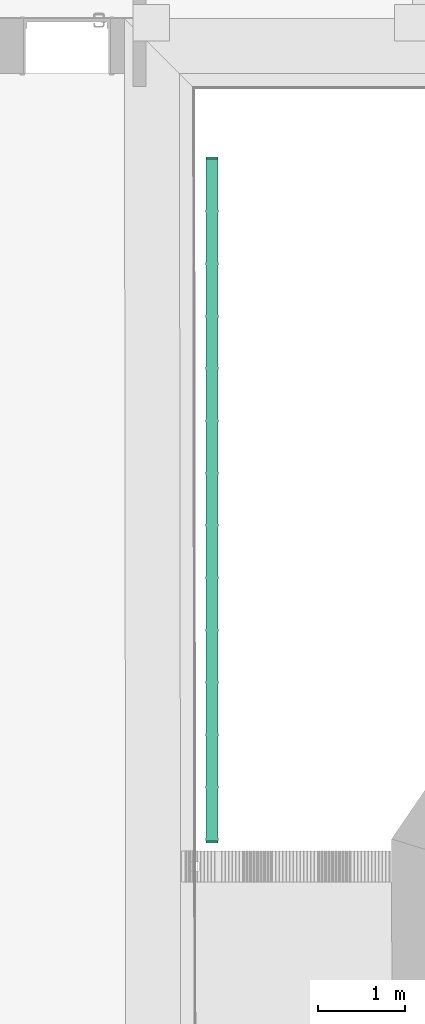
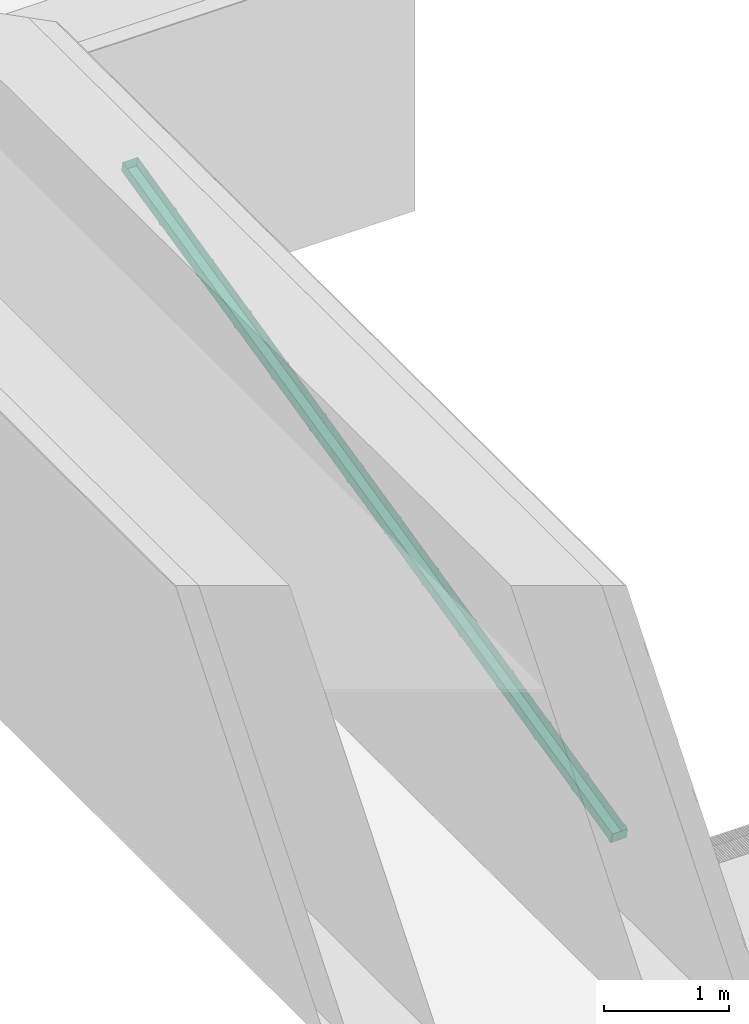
# One storey, part 90 of 127: 1 flow terminal.
"""IFC2X3 building model written with IfcOpenShell, lengths in millimetres."""

from ifc_helpers import new_model, entity, si_unit, converted_unit, derived_unit, money_unit, direction, frame, origin_with_axes, place, context, subcontext, project, spatial, open_shell, surface_model, type_object, element, save


model = new_model("IFC2X3")

# Units and contexts
model_context = context("Model", 3, precision=1e-05, world=origin_with_axes(), true_north=direction((0.0, 1.0)))
body_context = subcontext(model_context, "Body", "Model", "MODEL_VIEW")
ifc_project = project(units=[si_unit("LENGTHUNIT", "METRE", prefix="MILLI"), si_unit("AREAUNIT", "SQUARE_METRE"), si_unit("VOLUMEUNIT", "CUBIC_METRE"), converted_unit("PLANEANGLEUNIT", "DEGREE", entity("IfcPlaneAngleMeasure", 0.0174532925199), si_unit("PLANEANGLEUNIT", "RADIAN"), dimensions=[0, 0, 0, 0, 0, 0, 0]), si_unit("SOLIDANGLEUNIT", "STERADIAN"), money_unit("EUR"), converted_unit("TIMEUNIT", "Year", entity("IfcTimeMeasure", 31556926.0), si_unit("TIMEUNIT", "SECOND"), dimensions=[0, 0, 1, 0, 0, 0, 0]), si_unit("MASSUNIT", "GRAM", prefix="KILO"), si_unit("THERMODYNAMICTEMPERATUREUNIT", "DEGREE_CELSIUS"), si_unit("LUMINOUSINTENSITYUNIT", "LUMEN"), si_unit("ENERGYUNIT", "JOULE", prefix="MEGA"), derived_unit("THERMALCONDUCTANCEUNIT", [(si_unit("POWERUNIT", "WATT"), 1), (si_unit("LENGTHUNIT", "METRE"), -1), (si_unit("THERMODYNAMICTEMPERATUREUNIT", "KELVIN"), -1)]), derived_unit("SPECIFICHEATCAPACITYUNIT", [(si_unit("ENERGYUNIT", "JOULE"), 1), (si_unit("MASSUNIT", "GRAM", prefix="KILO"), -1), (si_unit("THERMODYNAMICTEMPERATUREUNIT", "KELVIN"), -1)]), derived_unit("MASSDENSITYUNIT", [(si_unit("MASSUNIT", "GRAM", prefix="KILO"), 1), (si_unit("VOLUMEUNIT", "CUBIC_METRE"), -1)])], contexts=[model_context])

# Site, building, storey
site_placement = place(None, origin_with_axes())
site = spatial("IfcSite", under=ifc_project, at=site_placement, Name="Site", CompositionType="ELEMENT")
building_placement = place(site_placement, origin_with_axes())
building = spatial("IfcBuilding", under=site, at=building_placement, Name="Building", CompositionType="ELEMENT")
storey_placement = place(building_placement, origin_with_axes())
storey = spatial("IfcBuildingStorey", under=building, at=storey_placement, Name="1 KORRUS", CompositionType="ELEMENT", Elevation=0.0)

# Flow terminal
waste_terminal_type = type_object("IfcWasteTerminalType", Name="Gutter 22", PredefinedType="NOTDEFINED")
flow_terminal_placement = place(storey_placement, frame((40639.2219795, 57967.6920098, 2077.34648242), z_axis=(0.0, 0.0, 1.0), x_axis=(0.0, -1.0, 0.0)))
element("IfcFlowTerminal", 1, at=flow_terminal_placement, inside=storey, type_object=waste_terminal_type, Name="Renn", context=body_context, shape_type="SurfaceModel", body=[
    surface_model("IfcShellBasedSurfaceModel", [(7839.57951186, -70.0, -1809.90954109), (7817.08440643, -70.0, -1907.34654757), (-22.4951054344, -70.0, -97.4370064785), (0.0, -70.0, 0.0), (7817.08440643, 70.0, -1907.34654757), (-22.4951054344, 70.0, -97.4370064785), (7839.57951186, 70.0, -1809.90954109), (0.0, 70.0, 0.0)], [open_shell([[[0, 1, 2, 3]], [[1, 4, 5, 2]], [[4, 6, 7, 5]]])]),
    surface_model("IfcShellBasedSurfaceModel", [(585.0, -74.0, -133.057891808), (585.0, -74.0, -246.614348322), (615.0, -74.0, -246.614348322), (615.0, -74.0, -133.057891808), (585.0, 74.0, -246.614348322), (615.0, 74.0, -246.614348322), (585.0, 74.0, -133.057891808), (615.0, 74.0, -133.057891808)], [open_shell([[[0, 1, 2, 3]], [[1, 4, 5, 2]], [[4, 6, 7, 5]]])]),
    surface_model("IfcShellBasedSurfaceModel", [(1185.0, -74.0, -271.578806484), (1185.0, -74.0, -385.135262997), (1215.0, -74.0, -385.135262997), (1215.0, -74.0, -271.578806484), (1185.0, 74.0, -385.135262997), (1215.0, 74.0, -385.135262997), (1185.0, 74.0, -271.578806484), (1215.0, 74.0, -271.578806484)], [open_shell([[[0, 1, 2, 3]], [[1, 4, 5, 2]], [[4, 6, 7, 5]]])]),
    surface_model("IfcShellBasedSurfaceModel", [(1785.0, -74.0, -410.099721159), (1785.0, -74.0, -523.656177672), (1815.0, -74.0, -523.656177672), (1815.0, -74.0, -410.099721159), (1785.0, 74.0, -523.656177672), (1815.0, 74.0, -523.656177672), (1785.0, 74.0, -410.099721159), (1815.0, 74.0, -410.099721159)], [open_shell([[[0, 1, 2, 3]], [[1, 4, 5, 2]], [[4, 6, 7, 5]]])]),
    surface_model("IfcShellBasedSurfaceModel", [(2385.0, -74.0, -548.620635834), (2385.0, -74.0, -662.177092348), (2415.0, -74.0, -662.177092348), (2415.0, -74.0, -548.620635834), (2385.0, 74.0, -662.177092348), (2415.0, 74.0, -662.177092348), (2385.0, 74.0, -548.620635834), (2415.0, 74.0, -548.620635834)], [open_shell([[[0, 1, 2, 3]], [[1, 4, 5, 2]], [[4, 6, 7, 5]]])]),
    surface_model("IfcShellBasedSurfaceModel", [(2985.0, -74.0, -687.14155051), (2985.0, -74.0, -800.698007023), (3015.0, -74.0, -800.698007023), (3015.0, -74.0, -687.14155051), (2985.0, 74.0, -800.698007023), (3015.0, 74.0, -800.698007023), (2985.0, 74.0, -687.14155051), (3015.0, 74.0, -687.14155051)], [open_shell([[[0, 1, 2, 3]], [[1, 4, 5, 2]], [[4, 6, 7, 5]]])]),
    surface_model("IfcShellBasedSurfaceModel", [(3585.0, -74.0, -825.662465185), (3585.0, -74.0, -939.218921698), (3615.0, -74.0, -939.218921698), (3615.0, -74.0, -825.662465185), (3585.0, 74.0, -939.218921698), (3615.0, 74.0, -939.218921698), (3585.0, 74.0, -825.662465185), (3615.0, 74.0, -825.662465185)], [open_shell([[[0, 1, 2, 3]], [[1, 4, 5, 2]], [[4, 6, 7, 5]]])]),
    surface_model("IfcShellBasedSurfaceModel", [(4185.0, -74.0, -964.18337986), (4185.0, -74.0, -1077.73983637), (4215.0, -74.0, -1077.73983637), (4215.0, -74.0, -964.18337986), (4185.0, 74.0, -1077.73983637), (4215.0, 74.0, -1077.73983637), (4185.0, 74.0, -964.18337986), (4215.0, 74.0, -964.18337986)], [open_shell([[[0, 1, 2, 3]], [[1, 4, 5, 2]], [[4, 6, 7, 5]]])]),
    surface_model("IfcShellBasedSurfaceModel", [(4785.0, -74.0, -1102.70429454), (4785.0, -74.0, -1216.26075105), (4815.0, -74.0, -1216.26075105), (4815.0, -74.0, -1102.70429454), (4785.0, 74.0, -1216.26075105), (4815.0, 74.0, -1216.26075105), (4785.0, 74.0, -1102.70429454), (4815.0, 74.0, -1102.70429454)], [open_shell([[[0, 1, 2, 3]], [[1, 4, 5, 2]], [[4, 6, 7, 5]]])]),
    surface_model("IfcShellBasedSurfaceModel", [(5385.0, -74.0, -1241.22520921), (5385.0, -74.0, -1354.78166572), (5415.0, -74.0, -1354.78166572), (5415.0, -74.0, -1241.22520921), (5385.0, 74.0, -1354.78166572), (5415.0, 74.0, -1354.78166572), (5385.0, 74.0, -1241.22520921), (5415.0, 74.0, -1241.22520921)], [open_shell([[[0, 1, 2, 3]], [[1, 4, 5, 2]], [[4, 6, 7, 5]]])]),
    surface_model("IfcShellBasedSurfaceModel", [(5985.0, -74.0, -1379.74612389), (5985.0, -74.0, -1493.3025804), (6015.0, -74.0, -1493.3025804), (6015.0, -74.0, -1379.74612389), (5985.0, 74.0, -1493.3025804), (6015.0, 74.0, -1493.3025804), (5985.0, 74.0, -1379.74612389), (6015.0, 74.0, -1379.74612389)], [open_shell([[[0, 1, 2, 3]], [[1, 4, 5, 2]], [[4, 6, 7, 5]]])]),
    surface_model("IfcShellBasedSurfaceModel", [(6585.0, -74.0, -1518.26703856), (6585.0, -74.0, -1631.82349507), (6615.0, -74.0, -1631.82349507), (6615.0, -74.0, -1518.26703856), (6585.0, 74.0, -1631.82349507), (6615.0, 74.0, -1631.82349507), (6585.0, 74.0, -1518.26703856), (6615.0, 74.0, -1518.26703856)], [open_shell([[[0, 1, 2, 3]], [[1, 4, 5, 2]], [[4, 6, 7, 5]]])]),
    surface_model("IfcShellBasedSurfaceModel", [(7185.0, -74.0, -1656.78795324), (7185.0, -74.0, -1770.34440975), (7215.0, -74.0, -1770.34440975), (7215.0, -74.0, -1656.78795324), (7185.0, 74.0, -1770.34440975), (7215.0, 74.0, -1770.34440975), (7185.0, 74.0, -1656.78795324), (7215.0, 74.0, -1656.78795324)], [open_shell([[[0, 1, 2, 3]], [[1, 4, 5, 2]], [[4, 6, 7, 5]]])]),
    surface_model("IfcShellBasedSurfaceModel", [(7785.0, -74.0, -1795.30886791), (7785.0, -74.0, -1908.86532443), (7815.0, -74.0, -1908.86532443), (7815.0, -74.0, -1795.30886791), (7785.0, 74.0, -1908.86532443), (7815.0, 74.0, -1908.86532443), (7785.0, 74.0, -1795.30886791), (7815.0, 74.0, -1795.30886791)], [open_shell([[[0, 1, 2, 3]], [[1, 4, 5, 2]], [[4, 6, 7, 5]]])]),
    surface_model("IfcShellBasedSurfaceModel", [(0.0, 70.0, 0.0), (-22.4951054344, 70.0, -97.4370064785), (-22.4951054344, -70.0, -97.4370064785), (0.0, -70.0, 0.0)], [open_shell([[[0, 1, 2, 3]]])]),
    surface_model("IfcShellBasedSurfaceModel", [(7839.57951186, 70.0, -1809.90954109), (7817.08440643, 70.0, -1907.34654757), (7817.08440643, -70.0, -1907.34654757), (7839.57951186, -70.0, -1809.90954109)], [open_shell([[[0, 1, 2, 3]]])]),
])

save(model, "model.ifc")
